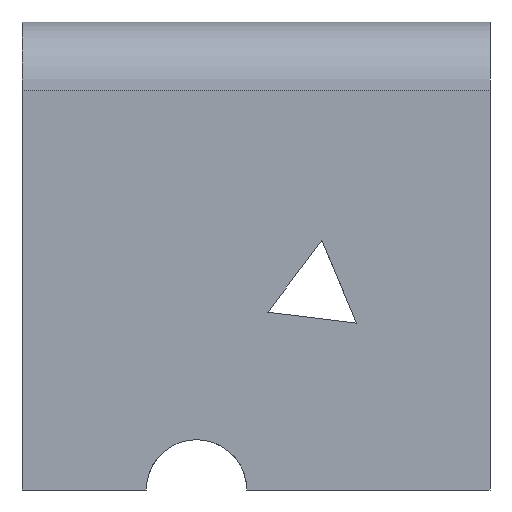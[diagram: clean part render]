
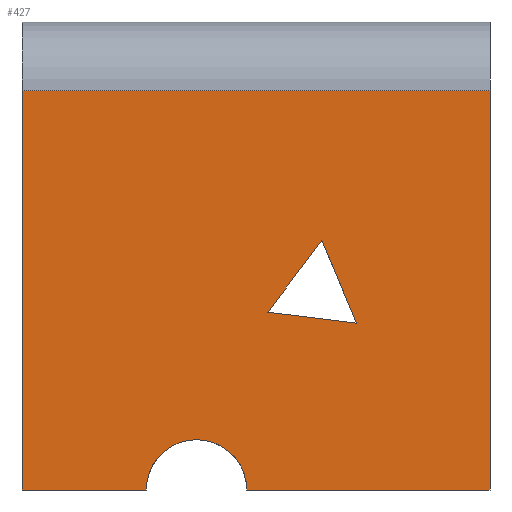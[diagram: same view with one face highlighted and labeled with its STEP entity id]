
A CAD part, left-side view. The second image highlights one B-rep face of the part: STEP entity #427.
In plain terms, the highlighted planar face has unit normal (-1, 0, 0).
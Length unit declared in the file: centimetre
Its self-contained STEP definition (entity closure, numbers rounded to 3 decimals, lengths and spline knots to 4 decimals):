
#2 = CIRCLE ( 'NONE', #290, 107.4652 ) ;
#12 = EDGE_CURVE ( 'NONE', #692, #281, #582, .T. ) ;
#33 = LINE ( 'NONE', #1077, #965 ) ;
#39 = LINE ( 'NONE', #234, #186 ) ;
#71 = CARTESIAN_POINT ( 'NONE',  ( 0., 284.8309, 356.4447 ) ) ;
#80 = VECTOR ( 'NONE', #978, 100. ) ;
#94 = VERTEX_POINT ( 'NONE', #1226 ) ;
#106 = ORIENTED_EDGE ( 'NONE', *, *, #12, .T. ) ;
#115 = CARTESIAN_POINT ( 'NONE',  ( 0., 519.5755, 0. ) ) ;
#137 = ORIENTED_EDGE ( 'NONE', *, *, #932, .T. ) ;
#155 = CARTESIAN_POINT ( 'NONE',  ( 0., 1000., 0. ) ) ;
#158 = AXIS2_PLACEMENT_3D ( 'NONE', #745, #451, #361 ) ;
#160 = CARTESIAN_POINT ( 'NONE',  ( 0., 284.8309, 356.4447 ) ) ;
#167 = CARTESIAN_POINT ( 'NONE',  ( 0., 734.5058, 0. ) ) ;
#186 = VECTOR ( 'NONE', #525, 100. ) ;
#210 = FACE_OUTER_BOUND ( 'NONE', #1081, .T. ) ;
#215 = VECTOR ( 'NONE', #666, 100. ) ;
#221 = ORIENTED_EDGE ( 'NONE', *, *, #589, .T. ) ;
#226 = VERTEX_POINT ( 'NONE', #348 ) ;
#234 = CARTESIAN_POINT ( 'NONE',  ( 0., 1000., 1000. ) ) ;
#243 = LINE ( 'NONE', #160, #828 ) ;
#281 = VERTEX_POINT ( 'NONE', #167 ) ;
#290 = AXIS2_PLACEMENT_3D ( 'NONE', #558, #398, #1069 ) ;
#301 = LINE ( 'NONE', #489, #80 ) ;
#302 = CARTESIAN_POINT ( 'NONE',  ( 0., 1000., 852.6907 ) ) ;
#313 = VERTEX_POINT ( 'NONE', #386 ) ;
#319 = ORIENTED_EDGE ( 'NONE', *, *, #557, .F. ) ;
#348 = CARTESIAN_POINT ( 'NONE',  ( 0., 0., 0. ) ) ;
#355 = AXIS2_PLACEMENT_3D ( 'NONE', #679, #774, #598 ) ;
#361 = DIRECTION ( 'NONE',  ( 0., 0., 1. ) ) ;
#374 = VERTEX_POINT ( 'NONE', #115 ) ;
#376 = LINE ( 'NONE', #1149, #215 ) ;
#386 = CARTESIAN_POINT ( 'NONE',  ( 0., 0., 852.6907 ) ) ;
#398 = DIRECTION ( 'NONE',  ( -1., 0., 0. ) ) ;
#406 = ORIENTED_EDGE ( 'NONE', *, *, #673, .T. ) ;
#427 = ADVANCED_FACE ( 'NONE', ( #486, #210 ), #792, .F. ) ;
#451 = DIRECTION ( 'NONE',  ( -1., 0., 0. ) ) ;
#466 = LINE ( 'NONE', #476, #863 ) ;
#476 = CARTESIAN_POINT ( 'NONE',  ( 0., 0., 1000. ) ) ;
#486 = FACE_BOUND ( 'NONE', #1184, .T. ) ;
#489 = CARTESIAN_POINT ( 'NONE',  ( 0., 474.796, 379.9883 ) ) ;
#498 = CARTESIAN_POINT ( 'NONE',  ( 0., 359.4242, 532.7311 ) ) ;
#525 = DIRECTION ( 'NONE',  ( 0., 0., -1. ) ) ;
#527 = EDGE_CURVE ( 'NONE', #313, #226, #466, .T. ) ;
#544 = LINE ( 'NONE', #155, #549 ) ;
#549 = VECTOR ( 'NONE', #1034, 100. ) ;
#557 = EDGE_CURVE ( 'NONE', #94, #281, #2, .T. ) ;
#558 = CARTESIAN_POINT ( 'NONE',  ( 0., 627.0407, 0. ) ) ;
#567 = EDGE_CURVE ( 'NONE', #1083, #1167, #301, .T. ) ;
#578 = ORIENTED_EDGE ( 'NONE', *, *, #912, .T. ) ;
#582 = LINE ( 'NONE', #980, #1222 ) ;
#589 = EDGE_CURVE ( 'NONE', #313, #977, #376, .T. ) ;
#598 = DIRECTION ( 'NONE',  ( 0., 0., -1. ) ) ;
#627 = CARTESIAN_POINT ( 'NONE',  ( 0., 474.796, 379.9883 ) ) ;
#666 = DIRECTION ( 'NONE',  ( 0., 1., 0. ) ) ;
#673 = EDGE_CURVE ( 'NONE', #977, #692, #39, .T. ) ;
#679 = CARTESIAN_POINT ( 'NONE',  ( 0., 1000., 1000. ) ) ;
#691 = DIRECTION ( 'NONE',  ( 0., -0.603, 0.798 ) ) ;
#692 = VERTEX_POINT ( 'NONE', #995 ) ;
#745 = CARTESIAN_POINT ( 'NONE',  ( 0., 627.0407, 0. ) ) ;
#774 = DIRECTION ( 'NONE',  ( 1., 0., 0. ) ) ;
#785 = ORIENTED_EDGE ( 'NONE', *, *, #1234, .F. ) ;
#791 = ORIENTED_EDGE ( 'NONE', *, *, #567, .T. ) ;
#792 = PLANE ( 'NONE',  #355 ) ;
#811 = CIRCLE ( 'NONE', #158, 107.4652 ) ;
#828 = VECTOR ( 'NONE', #1007, 100. ) ;
#863 = VECTOR ( 'NONE', #955, 100. ) ;
#912 = EDGE_CURVE ( 'NONE', #374, #226, #544, .T. ) ;
#932 = EDGE_CURVE ( 'NONE', #1167, #999, #33, .T. ) ;
#955 = DIRECTION ( 'NONE',  ( 0., 0., -1. ) ) ;
#965 = VECTOR ( 'NONE', #691, 100. ) ;
#977 = VERTEX_POINT ( 'NONE', #302 ) ;
#978 = DIRECTION ( 'NONE',  ( 0., 0.992, 0.123 ) ) ;
#980 = CARTESIAN_POINT ( 'NONE',  ( 0., 1000., 0. ) ) ;
#995 = CARTESIAN_POINT ( 'NONE',  ( 0., 1000., 0. ) ) ;
#999 = VERTEX_POINT ( 'NONE', #498 ) ;
#1007 = DIRECTION ( 'NONE',  ( 0., -0.39, -0.921 ) ) ;
#1034 = DIRECTION ( 'NONE',  ( 0., -1., 0. ) ) ;
#1069 = DIRECTION ( 'NONE',  ( 0., 0., 1. ) ) ;
#1077 = CARTESIAN_POINT ( 'NONE',  ( 0., 359.4242, 532.7311 ) ) ;
#1081 = EDGE_LOOP ( 'NONE', ( #106, #319, #785, #578, #1152, #221, #406 ) ) ;
#1083 = VERTEX_POINT ( 'NONE', #71 ) ;
#1109 = ORIENTED_EDGE ( 'NONE', *, *, #1117, .T. ) ;
#1117 = EDGE_CURVE ( 'NONE', #999, #1083, #243, .T. ) ;
#1149 = CARTESIAN_POINT ( 'NONE',  ( 0., 1000., 852.6907 ) ) ;
#1150 = DIRECTION ( 'NONE',  ( 0., -1., 0. ) ) ;
#1152 = ORIENTED_EDGE ( 'NONE', *, *, #527, .F. ) ;
#1167 = VERTEX_POINT ( 'NONE', #627 ) ;
#1184 = EDGE_LOOP ( 'NONE', ( #137, #1109, #791 ) ) ;
#1222 = VECTOR ( 'NONE', #1150, 100. ) ;
#1226 = CARTESIAN_POINT ( 'NONE',  ( 0., 627.0407, 107.4652 ) ) ;
#1234 = EDGE_CURVE ( 'NONE', #374, #94, #811, .T. ) ;
